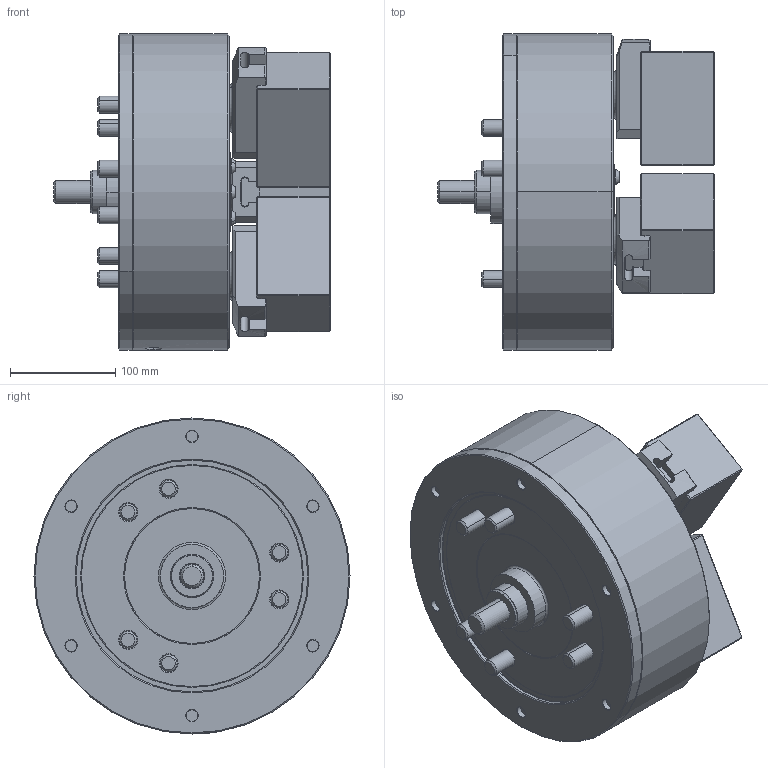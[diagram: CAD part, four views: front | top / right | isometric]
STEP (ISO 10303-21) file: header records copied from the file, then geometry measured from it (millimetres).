
FILE_DESCRIPTION (( 'STEP AP214' ), '1' );
FILE_NAME ('PW-12_CL.STEP', '2025-08-18T07:01:46', ( '' ), ( '' ), 'SwSTEP 2.0', 'SolidWorks 2022', '' );
FILE_SCHEMA (( 'AUTOMOTIVE_DESIGN' ));
Length unit declared in the file: millimetre
Products named in the file (6): 61P420193; PW-12_CL; 0030116025; 61P323264; 0030116105; 結合_OD
Assembly tree (19 placements, depth 2):
  PW-12_CL
    61P323264  x3
    61P420193  x3
    0030116025  x6
    0030116105  x6
    結合_OD
Bounding box: 262.8 x 300 x 300 mm (x, y, z)
Volume: 9048500.3 mm3; surface area: 607298.4 mm2
Topology: 19 solids, 20 shells, 1618 faces, 3993 edges, 2533 vertices
Faces by surface type: plane 814, cone 332, cylinder 251, bspline 185, torus 34, sphere 2
Entity records: 46591 total; most frequent: CARTESIAN_POINT 17227, ORIENTED_EDGE 6362, DIRECTION 5333, EDGE_CURVE 3181, VERTEX_POINT 2043, LINE 1779, VECTOR 1779, AXIS2_PLACEMENT_3D 1777
